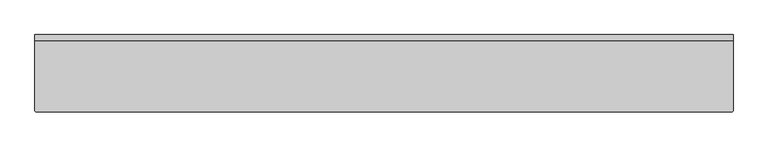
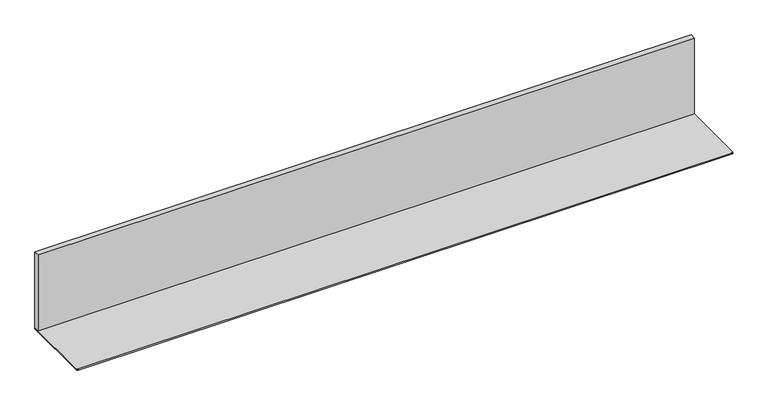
"""IFC4 building model written with IfcOpenShell, lengths in millimetres: furniture geometry, Geiger_GeigerOneCasegoods_OverheadStorageMetalShelf : Horizontal Veneer Back 120Wx 13.5Dx 14.875H."""

from ifc_helpers import new_model, si_unit, point, frame, frame_2d, origin, origin_with_axes, place, context, project, spatial, polyline, circle_curve, trimmed, segment, composite_curve, outline, extrude, source, transform, mapped, element, save


def furniture_4bc6fa38(model_context):
    return source(origin(), model_context, "Body", "SweptSolid", [
        extrude(outline(composite_curve([segment(polyline([(3048.0, 0.0), (3048.0, -331.65)]), True, "CONTINUOUS"), segment(trimmed(circle_curve(frame_2d((3041.65, -331.65)), 6.35), [point((3048.0, -331.65))], [point((3041.65, -338.0))], False, "CARTESIAN"), True, "CONTINUOUS"), segment(polyline([(3041.65, -338.0), (6.35, -338.0)]), True, "CONTINUOUS"), segment(trimmed(circle_curve(frame_2d((6.35, -331.65)), 6.35), [point((6.35, -338.0))], [point((0.0, -331.65))], False, "CARTESIAN"), True, "CONTINUOUS"), segment(polyline([(0.0, -331.65), (0.0, 0.0), (3048.0, 0.0)]), True, "CONTINUOUS")], self_intersect=False)), origin_with_axes(), (0.0, 0.0, 1.0), 6.0),
        extrude(outline(polyline([(3048.0, 0.0), (3048.0, -26.0), (0.0, -26.0), (0.0, 0.0), (3048.0, 0.0)])), frame((0.0, 0.0, 6.0), z_axis=(0.0, 0.0, 1.0), x_axis=(1.0, 0.0, 0.0)), (0.0, 0.0, 1.0), 373.0),
    ])


if __name__ == "__main__":
    model = new_model("IFC4")
    model_context = context("Model", 3, world=origin())
    ifc_project = project(units=[si_unit("LENGTHUNIT", "METRE", prefix="MILLI")], contexts=[model_context])
    site = spatial("IfcSite", under=ifc_project)
    building = spatial("IfcBuilding", under=site)
    placement = place(None, origin())
    furniture_shape = furniture_4bc6fa38(model_context)
    element("IfcFurniture", 1, ObjectType="Geiger_GeigerOneCasegoods_OverheadStorageMetalShelf : Horizontal Veneer Back 120Wx 13.5Dx 14.875H", at=placement, inside=building, context=model_context, shape_type="MappedRepresentation", body=[
        mapped(furniture_shape, transform((0.0, 0.0, 0.0), x_axis=(1.0, 0.0, 0.0), y_axis=(0.0, 1.0, 0.0), z_axis=(0.0, 0.0, 1.0))),
    ])
    save(model, "model.ifc")
